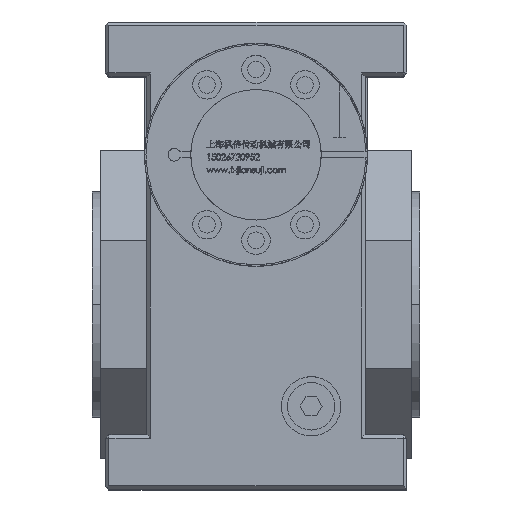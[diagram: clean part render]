
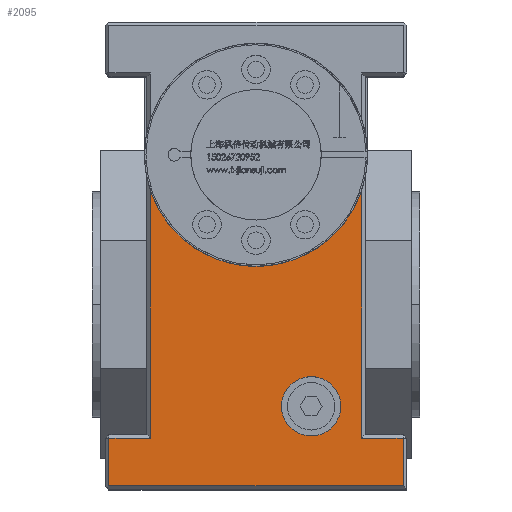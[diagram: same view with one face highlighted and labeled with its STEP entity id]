
A CAD part, top view. The second image highlights one B-rep face of the part: STEP entity #2095.
In plain terms, the highlighted planar face has unit normal (0, 0, 1).
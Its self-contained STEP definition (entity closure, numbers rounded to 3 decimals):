
#449 = CARTESIAN_POINT ( 'NONE',  ( 44.5, -56.5, 83. ) ) ;
#815 = CARTESIAN_POINT ( 'NONE',  ( -63.5, -56.5, 83. ) ) ;
#1092 = DIRECTION ( 'NONE',  ( 0., 1., 0. ) ) ;
#1298 = FACE_OUTER_BOUND ( 'NONE', #58839, .T. ) ;
#1665 = EDGE_CURVE ( 'NONE', #50339, #12853, #20143, .T. ) ;
#2095 = ADVANCED_FACE ( 'NONE', ( #1298, #73022 ), #67491, .F. ) ;
#4677 = VERTEX_POINT ( 'NONE', #67650 ) ;
#4910 = LINE ( 'NONE', #70316, #50704 ) ;
#5315 = LINE ( 'NONE', #8062, #17933 ) ;
#5629 = DIRECTION ( 'NONE',  ( 0., 0., 1. ) ) ;
#6028 = CARTESIAN_POINT ( 'NONE',  ( 63.5, -76.5, 83. ) ) ;
#6160 = AXIS2_PLACEMENT_3D ( 'NONE', #48484, #60738, #37388 ) ;
#6833 = LINE ( 'NONE', #6028, #68335 ) ;
#7653 = VECTOR ( 'NONE', #53609, 1000. ) ;
#8062 = CARTESIAN_POINT ( 'NONE',  ( 63.5, -56.5, 83. ) ) ;
#9690 = EDGE_CURVE ( 'NONE', #32797, #50339, #6833, .T. ) ;
#11221 = ORIENTED_EDGE ( 'NONE', *, *, #9690, .T. ) ;
#11984 = CARTESIAN_POINT ( 'NONE',  ( 23.262, -43., 83. ) ) ;
#12013 = DIRECTION ( 'NONE',  ( 1., 0., 0. ) ) ;
#12088 = CARTESIAN_POINT ( 'NONE',  ( -62., 119., 83. ) ) ;
#12853 = VERTEX_POINT ( 'NONE', #50731 ) ;
#14002 = EDGE_CURVE ( 'NONE', #55239, #76210, #34593, .T. ) ;
#16036 = CARTESIAN_POINT ( 'NONE',  ( -62., -56.5, 83. ) ) ;
#16507 = ORIENTED_EDGE ( 'NONE', *, *, #31809, .T. ) ;
#17649 = LINE ( 'NONE', #12088, #48277 ) ;
#17933 = VECTOR ( 'NONE', #68670, 1000. ) ;
#18260 = VECTOR ( 'NONE', #1092, 1000. ) ;
#19084 = LINE ( 'NONE', #815, #34619 ) ;
#19211 = CARTESIAN_POINT ( 'NONE',  ( 35.762, -43., 83. ) ) ;
#19618 = CARTESIAN_POINT ( 'NONE',  ( 23.262, -43., 83. ) ) ;
#19913 = VERTEX_POINT ( 'NONE', #449 ) ;
#20143 = LINE ( 'NONE', #55770, #18260 ) ;
#22788 = CIRCLE ( 'NONE', #49342, 47. ) ;
#24384 = ORIENTED_EDGE ( 'NONE', *, *, #14002, .F. ) ;
#25034 = VERTEX_POINT ( 'NONE', #27234 ) ;
#27234 = CARTESIAN_POINT ( 'NONE',  ( -44.5, 47.876, 83. ) ) ;
#28684 = DIRECTION ( 'NONE',  ( 1., 0., 0. ) ) ;
#31809 = EDGE_CURVE ( 'NONE', #72735, #32797, #17649, .T. ) ;
#31844 = ORIENTED_EDGE ( 'NONE', *, *, #74198, .T. ) ;
#32196 = EDGE_CURVE ( 'NONE', #12853, #19913, #5315, .T. ) ;
#32419 = ORIENTED_EDGE ( 'NONE', *, *, #70210, .T. ) ;
#32797 = VERTEX_POINT ( 'NONE', #48682 ) ;
#32932 = CARTESIAN_POINT ( 'NONE',  ( -44.5, -56.5, 83. ) ) ;
#33691 = EDGE_CURVE ( 'NONE', #19913, #4677, #4910, .T. ) ;
#33906 = DIRECTION ( 'NONE',  ( 0., 1., 0. ) ) ;
#34593 = CIRCLE ( 'NONE', #38371, 12.5 ) ;
#34619 = VECTOR ( 'NONE', #60646, 1000. ) ;
#35019 = DIRECTION ( 'NONE',  ( 0., 0., 1. ) ) ;
#37388 = DIRECTION ( 'NONE',  ( 0., 1., 0. ) ) ;
#38371 = AXIS2_PLACEMENT_3D ( 'NONE', #11984, #5629, #71788 ) ;
#40490 = ORIENTED_EDGE ( 'NONE', *, *, #45305, .F. ) ;
#42528 = EDGE_CURVE ( 'NONE', #25034, #4677, #22788, .T. ) ;
#42896 = CIRCLE ( 'NONE', #55532, 12.5 ) ;
#45305 = EDGE_CURVE ( 'NONE', #76210, #55239, #42896, .T. ) ;
#47669 = LINE ( 'NONE', #54764, #7653 ) ;
#48277 = VECTOR ( 'NONE', #54050, 1000. ) ;
#48484 = CARTESIAN_POINT ( 'NONE',  ( 63.5, 119., 83. ) ) ;
#48682 = CARTESIAN_POINT ( 'NONE',  ( -62., -76.5, 83. ) ) ;
#49342 = AXIS2_PLACEMENT_3D ( 'NONE', #67052, #55938, #54760 ) ;
#49673 = ORIENTED_EDGE ( 'NONE', *, *, #32196, .T. ) ;
#50339 = VERTEX_POINT ( 'NONE', #66956 ) ;
#50704 = VECTOR ( 'NONE', #33906, 1000. ) ;
#50731 = CARTESIAN_POINT ( 'NONE',  ( 62., -56.5, 83. ) ) ;
#53609 = DIRECTION ( 'NONE',  ( 0., -1., 0. ) ) ;
#54050 = DIRECTION ( 'NONE',  ( 0., -1., 0. ) ) ;
#54760 = DIRECTION ( 'NONE',  ( 0., 1., 0. ) ) ;
#54764 = CARTESIAN_POINT ( 'NONE',  ( -44.5, -55., 83. ) ) ;
#55239 = VERTEX_POINT ( 'NONE', #66911 ) ;
#55532 = AXIS2_PLACEMENT_3D ( 'NONE', #19618, #35019, #28684 ) ;
#55770 = CARTESIAN_POINT ( 'NONE',  ( 62., -55., 83. ) ) ;
#55938 = DIRECTION ( 'NONE',  ( 0., 0., 1. ) ) ;
#58839 = EDGE_LOOP ( 'NONE', ( #11221, #75046, #49673, #65971, #59027, #32419, #31844, #16507 ) ) ;
#59027 = ORIENTED_EDGE ( 'NONE', *, *, #42528, .F. ) ;
#60646 = DIRECTION ( 'NONE',  ( -1., 0., 0. ) ) ;
#60738 = DIRECTION ( 'NONE',  ( 0., 0., -1. ) ) ;
#63596 = EDGE_LOOP ( 'NONE', ( #40490, #24384 ) ) ;
#65971 = ORIENTED_EDGE ( 'NONE', *, *, #33691, .T. ) ;
#66911 = CARTESIAN_POINT ( 'NONE',  ( 10.762, -43., 83. ) ) ;
#66956 = CARTESIAN_POINT ( 'NONE',  ( 62., -76.5, 83. ) ) ;
#67052 = CARTESIAN_POINT ( 'NONE',  ( 0., 63., 83. ) ) ;
#67491 = PLANE ( 'NONE',  #6160 ) ;
#67650 = CARTESIAN_POINT ( 'NONE',  ( 44.5, 47.876, 83. ) ) ;
#68335 = VECTOR ( 'NONE', #12013, 1000. ) ;
#68670 = DIRECTION ( 'NONE',  ( -1., 0., 0. ) ) ;
#70210 = EDGE_CURVE ( 'NONE', #25034, #74233, #47669, .T. ) ;
#70316 = CARTESIAN_POINT ( 'NONE',  ( 44.5, 53.356, 83. ) ) ;
#71788 = DIRECTION ( 'NONE',  ( 1., 0., 0. ) ) ;
#72735 = VERTEX_POINT ( 'NONE', #16036 ) ;
#73022 = FACE_BOUND ( 'NONE', #63596, .T. ) ;
#74198 = EDGE_CURVE ( 'NONE', #74233, #72735, #19084, .T. ) ;
#74233 = VERTEX_POINT ( 'NONE', #32932 ) ;
#75046 = ORIENTED_EDGE ( 'NONE', *, *, #1665, .T. ) ;
#76210 = VERTEX_POINT ( 'NONE', #19211 ) ;
